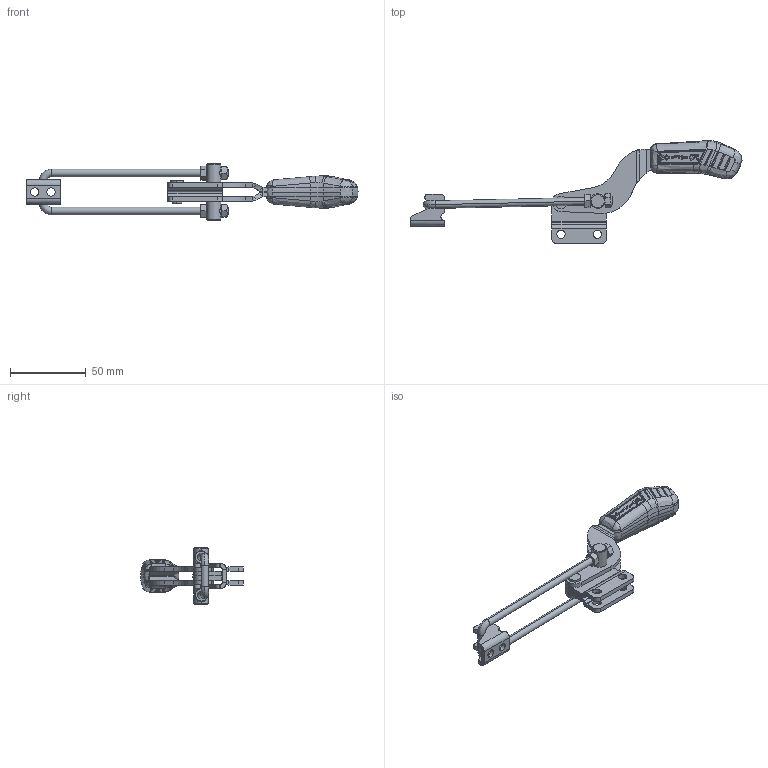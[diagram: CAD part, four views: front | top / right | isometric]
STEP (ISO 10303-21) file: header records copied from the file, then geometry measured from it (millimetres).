
FILE_DESCRIPTION (( 'STEP AP203' ), '1' );
FILE_NAME ('KF-643 RL.STEP', '2014-08-20T18:36:21', ( 'Ricardo' ), ( '' ), 'SwSTEP 2.0', 'SolidWorks 2013', '' );
FILE_SCHEMA (( 'CONFIG_CONTROL_DESIGN' ));
Length unit declared in the file: millimetre
Products named in the file (12): 07.60005; 02.11036_Esquerda; 06.50023; 01.10048_Direita; KF-643 RL; 01.10048_Esquerda; 16.20034; 03.20067; 15.10026; 11.50005; 11.50013; 02.11036_Direita
Assembly tree (13 placements, depth 2):
  KF-643 RL
    02.11036_Direita
    02.11036_Esquerda
    01.10048_Direita
    01.10048_Esquerda
    16.20034
    03.20067
    15.10026
    11.50005  x2
    11.50013  x2
    07.60005
    06.50023
Bounding box: 219.1 x 67.73 x 37 mm (x, y, z)
Volume: 42788.3 mm3; surface area: 29155.8 mm2
Topology: 13 solids, 13 shells, 940 faces, 2374 edges, 1470 vertices
Faces by surface type: cylinder 288, bspline 279, plane 249, cone 66, sphere 50, torus 8
Entity records: 35110 total; most frequent: CARTESIAN_POINT 14993, ORIENTED_EDGE 4512, DIRECTION 3138, EDGE_CURVE 2256, VERTEX_POINT 1403, AXIS2_PLACEMENT_3D 1182, EDGE_LOOP 943, FACE_OUTER_BOUND 891
